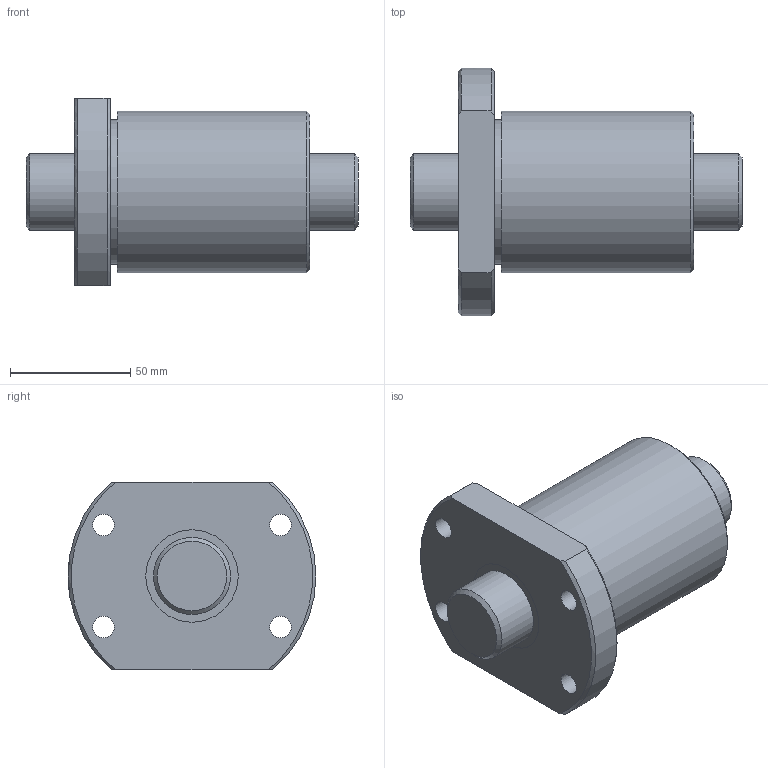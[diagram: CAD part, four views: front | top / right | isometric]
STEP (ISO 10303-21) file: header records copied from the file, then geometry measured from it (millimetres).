
FILE_DESCRIPTION(/* description */ ('STEP AP203'),/* implementation_level */ '2;1');
FILE_NAME(/* name */ 'BTK3210V-5.3ZZ+138LC7T_000',/* time_stamp */ '2025-01-15T02:48:05+01:00',/* author */ ('License CC BY-ND 4.0'),/* organization */ ('CADENAS'),/* preprocessor_version */ 'ST-DEVELOPER v19.3',/* originating_system */ 'PARTsolutions',/* authorisation */ ' ');
FILE_SCHEMA (('CONFIG_CONTROL_DESIGN'));
Length unit declared in the file: millimetre
Products named in the file (3): BTK3210V-5.3ZZ+138LC7T_000; BTK 3210V-5.300 Shaft; BTK 3210V-5.3ZZ Nut
Assembly tree (2 placements, depth 2):
  BTK3210V-5.3ZZ+138LC7T_000
    BTK 3210V-5.300 Shaft
    BTK 3210V-5.3ZZ Nut
Bounding box: 138 x 103 x 78 mm (x, y, z)
Volume: 425242.3 mm3; surface area: 62564.1 mm2
Topology: 2 solids, 2 shells, 31 faces, 66 edges, 43 vertices
Faces by surface type: cylinder 13, plane 10, cone 8
Full cylindrical faces by diameter (mm): 4.917 x1, 9 x4, 32 x2, 38.4 x2, 60.3 x1, 67 x1
Entity records: 887 total; most frequent: CARTESIAN_POINT 170, DIRECTION 140, ORIENTED_EDGE 100, AXIS2_PLACEMENT_3D 66, EDGE_LOOP 62, FACE_BOUND 62, EDGE_CURVE 50, VERTEX_POINT 42
